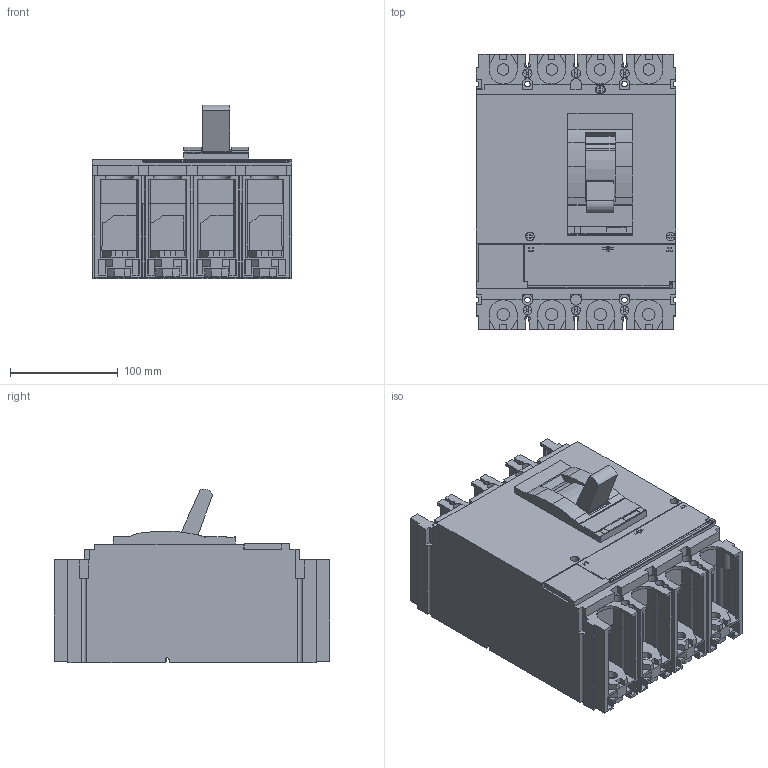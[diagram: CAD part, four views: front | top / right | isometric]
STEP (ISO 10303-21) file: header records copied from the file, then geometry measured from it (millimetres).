
FILE_DESCRIPTION((''),'2;1');
FILE_NAME('1684842292374_ASM','2023-05-23T17:15:16',('SESA644935'),('Schneider-Electric'),'CREO PARAMETRIC BY PTC INC, 2021284','CREO PARAMETRIC BY PTC INC, 2021284','');
FILE_SCHEMA(('AP242_MANAGED_MODEL_BASED_3D_ENGINEERING_MIM_LF { 1 0 10303 442 1 1 4 }'));
Length unit declared in the file: millimetre
Products named in the file (5): EMPTYNODE_1684842292398_ASM; MODEL-C2-4P; MODEL-C2-4P-CAP; MODEL-C2-4P-3D_ASM; 1684842292374_ASM
Assembly tree (4 placements, depth 3):
  1684842292374_ASM
    EMPTYNODE_1684842292398_ASM
    MODEL-C2-4P-3D_ASM
      MODEL-C2-4P
      MODEL-C2-4P-CAP
Bounding box: 184.7 x 255 x 161.05 mm (x, y, z)
Volume: 4316771.4 mm3; surface area: 325251 mm2
Topology: 4 solids, 4 shells, 1231 faces, 3417 edges, 2251 vertices
Faces by surface type: plane 1007, cylinder 222, extrusion 2
Entity records: 53962 total; most frequent: CARTESIAN_POINT 7052, ORIENTED_EDGE 6834, DIRECTION 6388, PRESENTATION_STYLE_ASSIGNMENT 3801, STYLED_ITEM 3421, CURVE_STYLE 3417, EDGE_CURVE 3417, VECTOR 2878
